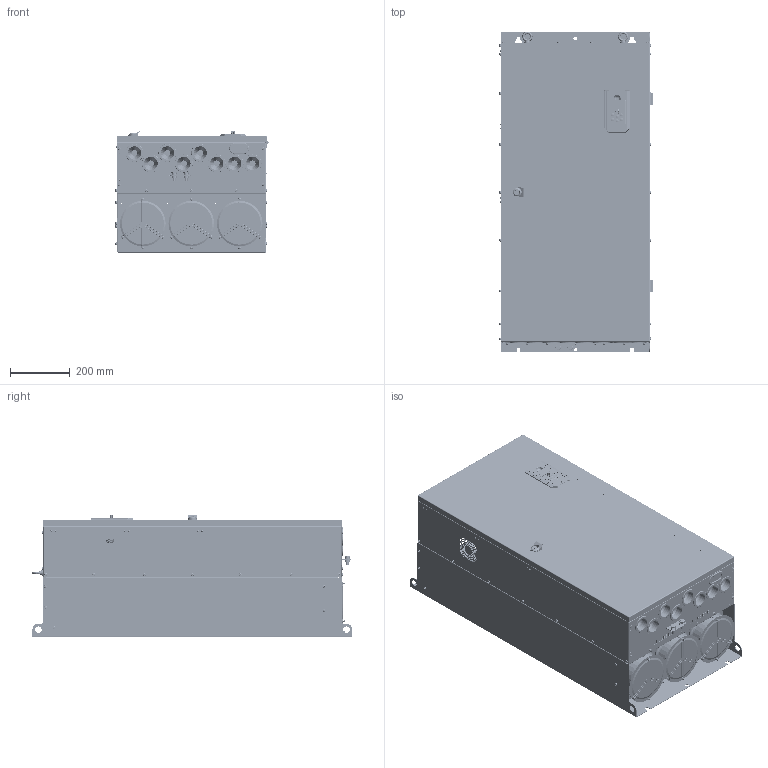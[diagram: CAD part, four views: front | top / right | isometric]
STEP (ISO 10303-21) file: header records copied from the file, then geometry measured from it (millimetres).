
FILE_DESCRIPTION((''),'2;1');
FILE_NAME('AD800P-D8-DRIVE_ASM','2024-12-12T10:55:32',('wendong.luo'),(''),'CREO PARAMETRIC BY PTC INC, 2018100','CREO PARAMETRIC BY PTC INC, 2018100','');
FILE_SCHEMA(('CONFIG_CONTROL_DESIGN','GEOMETRIC_VALIDATION_PROPERTIES_MIM'));
Products named in the file (94): D8-MECHANICAL-PART; PRT0001_7; 17251-5YE-2B_1; 17251_ASM_ASM; M0200005; M0202034; M0100015; M0202003; M0202014; M12-25; M0202068; M0202067; M0202037_ASM; M0202007; M10-25; M10-SPRING_FLAT; M10-WASHER; M0202036_ASM; M0202055; M0202054; P_FHS_5_12_; RIVETING-NUT-4_; M0202002; M3-SPRING_FLAT; M3-WASHER; M0202002_ASM; M0202040; FASTEN_D8_ASM; M0204014; M0204033; M0104030; M0104149; E0100736; E0400142; E0400150; E0400073; E0400116; E0400023; E0100736_ASM; E0200416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
Assembly tree (567 placements, depth 5):
  AD800P-D8-DRIVE_ASM
    D8-MECHANICAL-PART
    17251_ASM_ASM  x3
      PRT0001_7
      17251-5YE-2B_1
    M0200005  x3
    FASTEN_D8_ASM
      M0202034  x37
      M0100015  x2
      M0202003  x8
      M0202014
      M0202037_ASM  x14
        M12-25
        M0202068
        M0202067
      M0202007  x48
      M0202036_ASM  x2
        M10-25
        M10-SPRING_FLAT
        M10-WASHER
      M0202055  x2
      M0202054  x2
      P_FHS_5_12_  x10
      RIVETING-NUT-4_  x10
      M0202002_ASM  x2
        M0202002
        M3-SPRING_FLAT
        M3-WASHER
      M0202040  x12
    M0204014  x9
    M0204033
    M0104030
    CU0P-ASSY_ASM
      M0104149
      E0100736_ASM
        E0100736
        E0400142
        E0400150
        E0400073  x2
        E0400116
        E0400023
      E0200416
      M0104143
      E0400117
      E0100735_ASM
        E0100735
        0603  x193
        SOT-23  x51
        SO-14  x2
        E0300000
        SOD-6  x4
        E0300008  x2
        LQFP64
        E0400116
        1206  x32
        SMD3215-2P
        0805  x20
        SO-8  x2
        P3_5_3_2_
        SMM0207  x2
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Bounding box: 512.2 x 1072.9 x 409 mm (x, y, z)
Volume: 7085229.2 mm3; surface area: 6973907 mm2
Topology: 772 solids, 881 shells, 47085 faces, 122340 edges, 78208 vertices
Faces by surface type: plane 26123, cylinder 11103, bspline 4710, extrusion 1604, torus 1557, cone 1469, sphere 519
Entity records: 954384 total; most frequent: CARTESIAN_POINT 215960, ORIENTED_EDGE 119232, DIRECTION 107151, EDGE_CURVE 59817, PRESENTATION_STYLE_ASSIGNMENT 44818, VECTOR 43055, STYLED_ITEM 42186, LINE 41457
